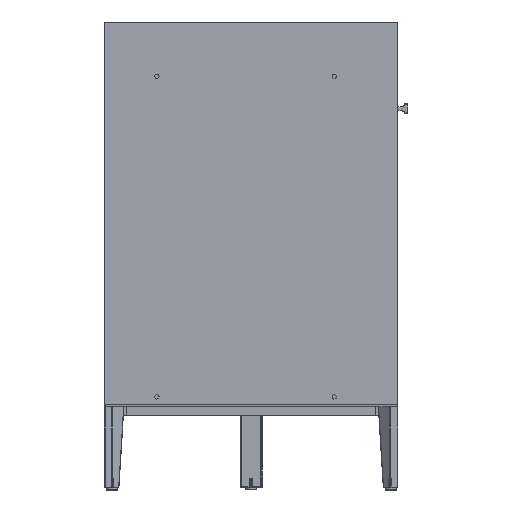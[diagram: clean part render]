
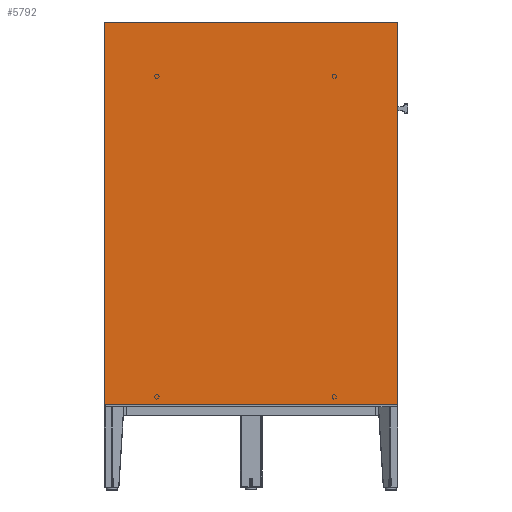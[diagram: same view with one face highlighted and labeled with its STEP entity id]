
A CAD part, left-side view. The second image highlights one B-rep face of the part: STEP entity #5792.
In plain terms, the highlighted planar face has unit normal (-1, 0, 0).
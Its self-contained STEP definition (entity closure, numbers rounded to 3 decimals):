
#5792=ADVANCED_FACE('',(#7864),#35014,.T.);
#7864=FACE_OUTER_BOUND('',#10080,.T.);
#10080=EDGE_LOOP('',(#21032,#21033,#21034,#21035));
#21032=ORIENTED_EDGE('',*,*,#26820,.T.);
#21033=ORIENTED_EDGE('',*,*,#26821,.T.);
#21034=ORIENTED_EDGE('',*,*,#26822,.T.);
#21035=ORIENTED_EDGE('',*,*,#26823,.T.);
#26820=EDGE_CURVE('',#34037,#34038,#30346,.T.);
#26821=EDGE_CURVE('',#34038,#34039,#30347,.T.);
#26822=EDGE_CURVE('',#34039,#34040,#30348,.T.);
#26823=EDGE_CURVE('',#34040,#34037,#30349,.T.);
#30346=B_SPLINE_CURVE_WITH_KNOTS('',1,(#93757,#93758),.UNSPECIFIED.,.F.,
 .F.,(2,2),(0.,530.),.UNSPECIFIED.);
#30347=B_SPLINE_CURVE_WITH_KNOTS('',1,(#93759,#93760),.UNSPECIFIED.,.F.,
 .F.,(2,2),(0.,690.),.UNSPECIFIED.);
#30348=B_SPLINE_CURVE_WITH_KNOTS('',1,(#93761,#93762),.UNSPECIFIED.,.F.,
 .F.,(2,2),(0.,530.),.UNSPECIFIED.);
#30349=B_SPLINE_CURVE_WITH_KNOTS('',1,(#93763,#93764),.UNSPECIFIED.,.F.,
 .F.,(2,2),(0.,690.),.UNSPECIFIED.);
#34037=VERTEX_POINT('',#93741);
#34038=VERTEX_POINT('',#93742);
#34039=VERTEX_POINT('',#93743);
#34040=VERTEX_POINT('',#93744);
#35014=PLANE('',#35975);
#35975=AXIS2_PLACEMENT_3D('',#93659,#36920,$);
#36920=DIRECTION('',(-1.,0.,0.));
#93659=CARTESIAN_POINT('',(-4.419,-45.118,85.988));
#93741=CARTESIAN_POINT('',(-4.419,537.942,155.048));
#93742=CARTESIAN_POINT('',(-4.419,7.942,155.048));
#93743=CARTESIAN_POINT('',(-4.419,7.942,845.048));
#93744=CARTESIAN_POINT('',(-4.419,537.942,845.048));
#93757=CARTESIAN_POINT('',(-4.419,537.942,155.048));
#93758=CARTESIAN_POINT('',(-4.419,7.942,155.048));
#93759=CARTESIAN_POINT('',(-4.419,7.942,155.048));
#93760=CARTESIAN_POINT('',(-4.419,7.942,845.048));
#93761=CARTESIAN_POINT('',(-4.419,7.942,845.048));
#93762=CARTESIAN_POINT('',(-4.419,537.942,845.048));
#93763=CARTESIAN_POINT('',(-4.419,537.942,845.048));
#93764=CARTESIAN_POINT('',(-4.419,537.942,155.048));
